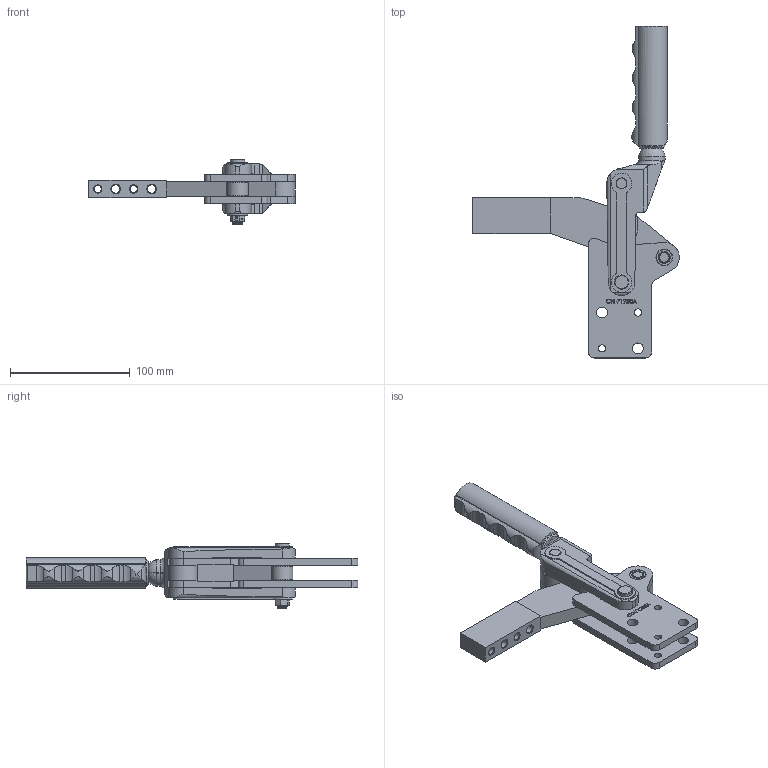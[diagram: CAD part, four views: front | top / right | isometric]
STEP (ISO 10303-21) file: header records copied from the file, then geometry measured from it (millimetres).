
FILE_DESCRIPTION(/* description */ ('STEP AP203'),/* implementation_level */ '2;1');
FILE_NAME(/* name */ 'E:\CAD_CLAMPS\Heavy duty weldables\CH-71230A_DODAC\CH-71230A_ZAMKNIETY.stp',/* time_stamp */ '2019-03-11T14:21:12+01:00',/* author */ ('Admin'),/* organization */ ('Î¢ÈíÖÐ¹ú'),/* preprocessor_version */ 'ST-DEVELOPER v17.2',/* originating_system */ 'Autodesk Inventor 2019',/* authorisation */ '');
FILE_SCHEMA (('AUTOMOTIVE_DESIGN { 1 0 10303 214 3 1 1 }'));
Length unit declared in the file: millimetre
Products named in the file (14): CH-71230A_OTWARTY; Ñ¹°Ñ_Ä¬ÈÏ; Á¬¸Ë_Ä¬ÈÏ; ¸ôÌ×_Ä¬ÈÏ; Ì×_Ä¬ÈÏ; ¸´¼þ Ìå_Ä¬ÈÏ; ÂÝÄ¸_Ä¬ÈÏ; ÂÝ¸Ë_Ä¬ÈÏ; ÊÖ±ú_Ä¬ÈÏ; µ×·´_Ä¬ÈÏ; µ×Õý_Ä¬ÈÏ; ³¤_Ä¬ÈÏ; ¶Ì_Ä¬ÈÏ; ÏâÌ×1_Ä¬ÈÏ
Assembly tree (22 placements, depth 2):
  CH-71230A_OTWARTY
    ÏâÌ×1_Ä¬ÈÏ  x8
    ¶Ì_Ä¬ÈÏ  x2
    Ñ¹°Ñ_Ä¬ÈÏ
    Á¬¸Ë_Ä¬ÈÏ  x2
    ¸ôÌ×_Ä¬ÈÏ
    Ì×_Ä¬ÈÏ
    ¸´¼þ Ìå_Ä¬ÈÏ
    ÂÝÄ¸_Ä¬ÈÏ
    ÂÝ¸Ë_Ä¬ÈÏ
    ÊÖ±ú_Ä¬ÈÏ
    µ×·´_Ä¬ÈÏ
    µ×Õý_Ä¬ÈÏ
    ³¤_Ä¬ÈÏ
Bounding box: 172.5 x 277.36 x 55 mm (x, y, z)
Volume: 287068.6 mm3; surface area: 110616.6 mm2
Topology: 22 solids, 22 shells, 618 faces, 1765 edges, 1217 vertices
Faces by surface type: plane 273, cylinder 177, bspline 87, cone 77, sphere 2, torus 2
Full cylindrical faces by diameter (mm): 2 x1, 5.593 x1, 6 x6, 6.6 x1, 7 x2, 8 x13, 9 x23, 9.5 x1, 10 x2, 12 x1, 14 x8, 14.1 x8, 18 x1, 22 x1
Entity records: 28123 total; most frequent: CARTESIAN_POINT 13576, ORIENTED_EDGE 3126, DIRECTION 2626, EDGE_CURVE 1563, VERTEX_POINT 1067, AXIS2_PLACEMENT_3D 893, LINE 840, VECTOR 840
